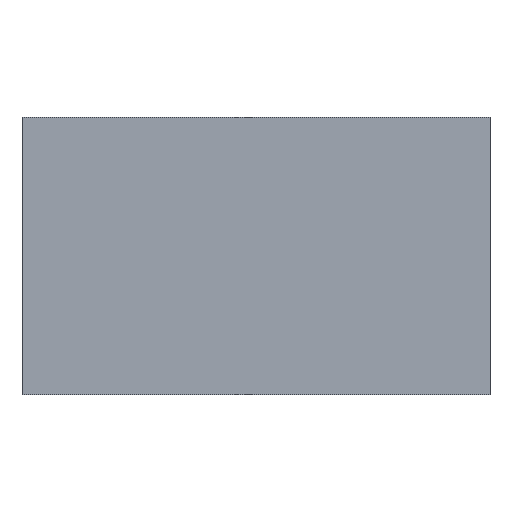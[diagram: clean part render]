
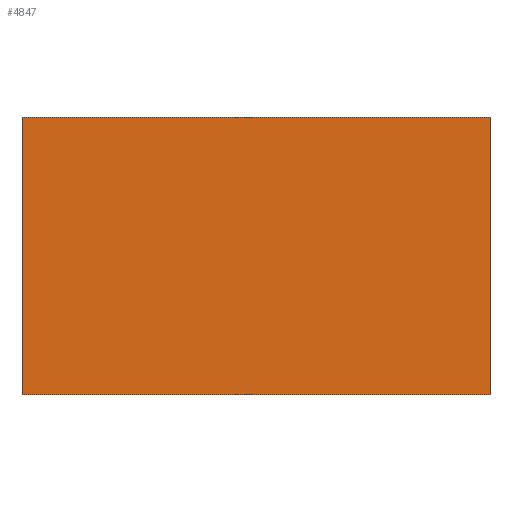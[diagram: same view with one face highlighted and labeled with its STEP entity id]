
A CAD part, top view. The second image highlights one B-rep face of the part: STEP entity #4847.
In plain terms, the highlighted planar face has unit normal (0, 0, 1).
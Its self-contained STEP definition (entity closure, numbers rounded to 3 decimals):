
#332 = PLANE('',#333);
#333 = AXIS2_PLACEMENT_3D('',#334,#335,#336);
#334 = CARTESIAN_POINT('',(0.,0.,0.));
#335 = DIRECTION('',(0.,1.,0.));
#336 = DIRECTION('',(1.,0.,0.));
#360 = PLANE('',#361);
#361 = AXIS2_PLACEMENT_3D('',#362,#363,#364);
#362 = CARTESIAN_POINT('',(0.,30.,0.));
#363 = DIRECTION('',(1.,0.,0.));
#364 = DIRECTION('',(0.,-1.,0.));
#388 = PLANE('',#389);
#389 = AXIS2_PLACEMENT_3D('',#390,#391,#392);
#390 = CARTESIAN_POINT('',(50.6,30.,0.));
#391 = DIRECTION('',(0.,-1.,0.));
#392 = DIRECTION('',(-1.,0.,0.));
#414 = PLANE('',#415);
#415 = AXIS2_PLACEMENT_3D('',#416,#417,#418);
#416 = CARTESIAN_POINT('',(50.6,0.,0.));
#417 = DIRECTION('',(-1.,0.,0.));
#418 = DIRECTION('',(0.,1.,0.));
#2052 = VERTEX_POINT('',#2053);
#2053 = CARTESIAN_POINT('',(0.,0.,15.14));
#2074 = EDGE_CURVE('',#2052,#2075,#2077,.T.);
#2075 = VERTEX_POINT('',#2076);
#2076 = CARTESIAN_POINT('',(50.6,0.,15.14));
#2077 = SURFACE_CURVE('',#2078,(#2082,#2089),.PCURVE_S1.);
#2078 = LINE('',#2079,#2080);
#2079 = CARTESIAN_POINT('',(0.,0.,15.14));
#2080 = VECTOR('',#2081,1.);
#2081 = DIRECTION('',(1.,0.,0.));
#2082 = PCURVE('',#332,#2083);
#2083 = DEFINITIONAL_REPRESENTATION('',(#2084),#2088);
#2084 = LINE('',#2085,#2086);
#2085 = CARTESIAN_POINT('',(0.,-15.14));
#2086 = VECTOR('',#2087,1.);
#2087 = DIRECTION('',(1.,0.));
#2088 = ( GEOMETRIC_REPRESENTATION_CONTEXT(2) 
PARAMETRIC_REPRESENTATION_CONTEXT() REPRESENTATION_CONTEXT('2D SPACE',''
  ) );
#2089 = PCURVE('',#2090,#2095);
#2090 = PLANE('',#2091);
#2091 = AXIS2_PLACEMENT_3D('',#2092,#2093,#2094);
#2092 = CARTESIAN_POINT('',(0.,0.,15.14));
#2093 = DIRECTION('',(0.,0.,-1.));
#2094 = DIRECTION('',(-1.,0.,0.));
#2095 = DEFINITIONAL_REPRESENTATION('',(#2096),#2100);
#2096 = LINE('',#2097,#2098);
#2097 = CARTESIAN_POINT('',(0.,0.));
#2098 = VECTOR('',#2099,1.);
#2099 = DIRECTION('',(-1.,0.));
#2100 = ( GEOMETRIC_REPRESENTATION_CONTEXT(2) 
PARAMETRIC_REPRESENTATION_CONTEXT() REPRESENTATION_CONTEXT('2D SPACE',''
  ) );
#2128 = VERTEX_POINT('',#2129);
#2129 = CARTESIAN_POINT('',(0.,30.,15.14));
#2150 = EDGE_CURVE('',#2128,#2052,#2151,.T.);
#2151 = SURFACE_CURVE('',#2152,(#2156,#2163),.PCURVE_S1.);
#2152 = LINE('',#2153,#2154);
#2153 = CARTESIAN_POINT('',(0.,30.,15.14));
#2154 = VECTOR('',#2155,1.);
#2155 = DIRECTION('',(0.,-1.,0.));
#2156 = PCURVE('',#360,#2157);
#2157 = DEFINITIONAL_REPRESENTATION('',(#2158),#2162);
#2158 = LINE('',#2159,#2160);
#2159 = CARTESIAN_POINT('',(0.,-15.14));
#2160 = VECTOR('',#2161,1.);
#2161 = DIRECTION('',(1.,0.));
#2162 = ( GEOMETRIC_REPRESENTATION_CONTEXT(2) 
PARAMETRIC_REPRESENTATION_CONTEXT() REPRESENTATION_CONTEXT('2D SPACE',''
  ) );
#2163 = PCURVE('',#2090,#2164);
#2164 = DEFINITIONAL_REPRESENTATION('',(#2165),#2169);
#2165 = LINE('',#2166,#2167);
#2166 = CARTESIAN_POINT('',(0.,30.));
#2167 = VECTOR('',#2168,1.);
#2168 = DIRECTION('',(0.,-1.));
#2169 = ( GEOMETRIC_REPRESENTATION_CONTEXT(2) 
PARAMETRIC_REPRESENTATION_CONTEXT() REPRESENTATION_CONTEXT('2D SPACE',''
  ) );
#2177 = EDGE_CURVE('',#2075,#2178,#2180,.T.);
#2178 = VERTEX_POINT('',#2179);
#2179 = CARTESIAN_POINT('',(50.6,30.,15.14));
#2180 = SURFACE_CURVE('',#2181,(#2185,#2192),.PCURVE_S1.);
#2181 = LINE('',#2182,#2183);
#2182 = CARTESIAN_POINT('',(50.6,0.,15.14));
#2183 = VECTOR('',#2184,1.);
#2184 = DIRECTION('',(0.,1.,0.));
#2185 = PCURVE('',#414,#2186);
#2186 = DEFINITIONAL_REPRESENTATION('',(#2187),#2191);
#2187 = LINE('',#2188,#2189);
#2188 = CARTESIAN_POINT('',(0.,-15.14));
#2189 = VECTOR('',#2190,1.);
#2190 = DIRECTION('',(1.,0.));
#2191 = ( GEOMETRIC_REPRESENTATION_CONTEXT(2) 
PARAMETRIC_REPRESENTATION_CONTEXT() REPRESENTATION_CONTEXT('2D SPACE',''
  ) );
#2192 = PCURVE('',#2090,#2193);
#2193 = DEFINITIONAL_REPRESENTATION('',(#2194),#2198);
#2194 = LINE('',#2195,#2196);
#2195 = CARTESIAN_POINT('',(-50.6,0.));
#2196 = VECTOR('',#2197,1.);
#2197 = DIRECTION('',(0.,1.));
#2198 = ( GEOMETRIC_REPRESENTATION_CONTEXT(2) 
PARAMETRIC_REPRESENTATION_CONTEXT() REPRESENTATION_CONTEXT('2D SPACE',''
  ) );
#2226 = EDGE_CURVE('',#2178,#2128,#2227,.T.);
#2227 = SURFACE_CURVE('',#2228,(#2232,#2239),.PCURVE_S1.);
#2228 = LINE('',#2229,#2230);
#2229 = CARTESIAN_POINT('',(50.6,30.,15.14));
#2230 = VECTOR('',#2231,1.);
#2231 = DIRECTION('',(-1.,0.,0.));
#2232 = PCURVE('',#388,#2233);
#2233 = DEFINITIONAL_REPRESENTATION('',(#2234),#2238);
#2234 = LINE('',#2235,#2236);
#2235 = CARTESIAN_POINT('',(0.,-15.14));
#2236 = VECTOR('',#2237,1.);
#2237 = DIRECTION('',(1.,0.));
#2238 = ( GEOMETRIC_REPRESENTATION_CONTEXT(2) 
PARAMETRIC_REPRESENTATION_CONTEXT() REPRESENTATION_CONTEXT('2D SPACE',''
  ) );
#2239 = PCURVE('',#2090,#2240);
#2240 = DEFINITIONAL_REPRESENTATION('',(#2241),#2245);
#2241 = LINE('',#2242,#2243);
#2242 = CARTESIAN_POINT('',(-50.6,30.));
#2243 = VECTOR('',#2244,1.);
#2244 = DIRECTION('',(1.,0.));
#2245 = ( GEOMETRIC_REPRESENTATION_CONTEXT(2) 
PARAMETRIC_REPRESENTATION_CONTEXT() REPRESENTATION_CONTEXT('2D SPACE',''
  ) );
#4847 = ADVANCED_FACE('',(#4848),#2090,.F.);
#4848 = FACE_BOUND('',#4849,.T.);
#4849 = EDGE_LOOP('',(#4850,#4851,#4852,#4853));
#4850 = ORIENTED_EDGE('',*,*,#2074,.T.);
#4851 = ORIENTED_EDGE('',*,*,#2177,.T.);
#4852 = ORIENTED_EDGE('',*,*,#2226,.T.);
#4853 = ORIENTED_EDGE('',*,*,#2150,.T.);
